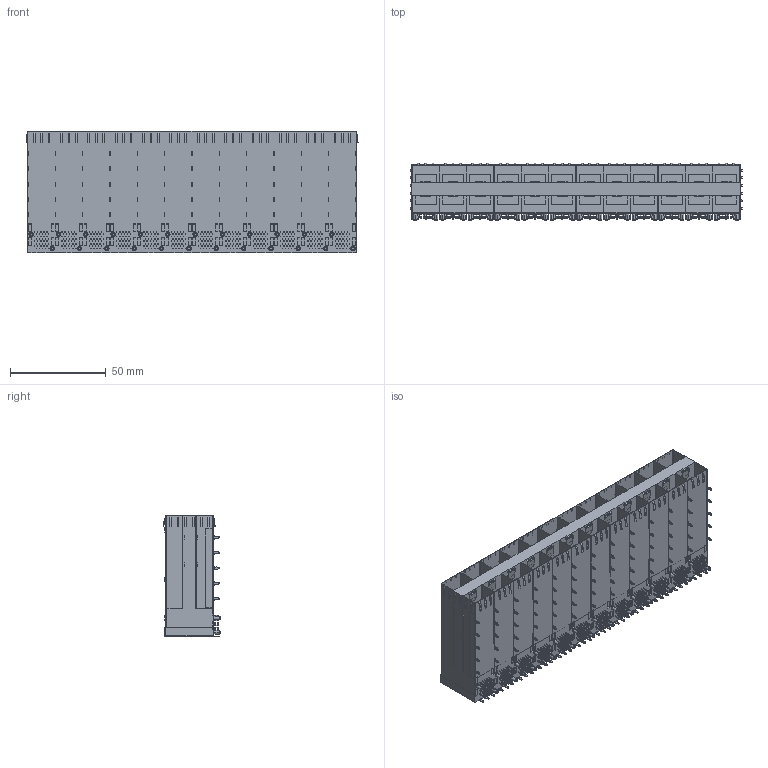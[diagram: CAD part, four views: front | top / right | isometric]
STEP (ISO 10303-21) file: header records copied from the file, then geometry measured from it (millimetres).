
FILE_DESCRIPTION (( 'STEP AP214' ), '1' );
FILE_NAME ('SFP 2X12 ﾎﾞﾔﾂﾑﾀ ﾎﾞｵﾆ 3D.STEP', '2025-09-02T06:56:39', ( 'ﾉ｣ﾈｲｩｿﾍ' ), ( 'Www.SangSan.Cn' ), 'SwSTEP 2.0', 'SolidWorks 2018', '' );
FILE_SCHEMA (( 'AUTOMOTIVE_DESIGN' ));
Products named in the file (1): SFP 2X12 拸堎挴 拸腑  3D
Bounding box: 173.05 x 29.8 x 63.25 mm (x, y, z)
Volume: 139069.9 mm3; surface area: 94096.5 mm2
Topology: 1 solids, 1 shells, 6462 faces, 17126 edges, 11382 vertices
Faces by surface type: plane 4886, cylinder 1478, cone 96, sphere 2
Entity records: 199050 total; most frequent: CARTESIAN_POINT 34969, ORIENTED_EDGE 34248, DIRECTION 33102, EDGE_CURVE 17124, LINE 14072, VECTOR 14072, VERTEX_POINT 11382, AXIS2_PLACEMENT_3D 9515
